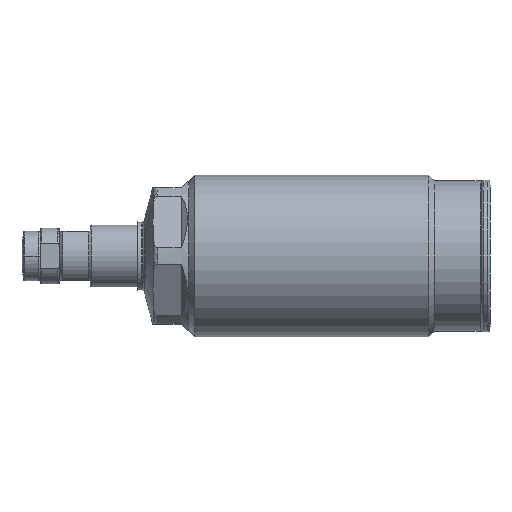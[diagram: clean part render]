
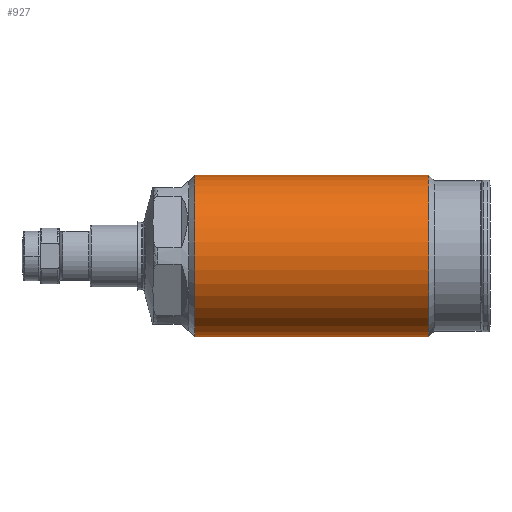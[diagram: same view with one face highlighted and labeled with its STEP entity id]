
A CAD part, left-side view. The second image highlights one B-rep face of the part: STEP entity #927.
In plain terms, the highlighted cylindrical face has radius 13 mm (diameter 26 mm), a partial arc.
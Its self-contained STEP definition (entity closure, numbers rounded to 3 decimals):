
#485=CYLINDRICAL_SURFACE('',#4067,13.);
#564=LINE('',#5998,#711);
#565=LINE('',#5999,#712);
#711=VECTOR('',#4731,1.);
#712=VECTOR('',#4732,1.);
#927=ADVANCED_FACE('',(#1228),#485,.T.);
#1228=FACE_OUTER_BOUND('',#1458,.T.);
#1458=EDGE_LOOP('',(#2077,#2078,#2079,#2080));
#2077=ORIENTED_EDGE('',*,*,#3117,.F.);
#2078=ORIENTED_EDGE('',*,*,#3216,.T.);
#2079=ORIENTED_EDGE('',*,*,#3118,.T.);
#2080=ORIENTED_EDGE('',*,*,#3217,.F.);
#2751=VERTEX_POINT('',#5990);
#2752=VERTEX_POINT('',#5992);
#2753=VERTEX_POINT('',#5996);
#2754=VERTEX_POINT('',#5997);
#3117=EDGE_CURVE('',#2754,#2752,#564,.T.);
#3118=EDGE_CURVE('',#2753,#2751,#565,.T.);
#3216=EDGE_CURVE('',#2754,#2753,#3639,.T.);
#3217=EDGE_CURVE('',#2752,#2751,#3640,.T.);
#3639=CIRCLE('',#4064,13.);
#3640=CIRCLE('',#4066,13.);
#4064=AXIS2_PLACEMENT_3D('',#6380,#4983,#4984);
#4066=AXIS2_PLACEMENT_3D('',#6382,#4987,#4988);
#4067=AXIS2_PLACEMENT_3D('',#6383,#4989,#4990);
#4731=DIRECTION('',(0.,1.,0.));
#4732=DIRECTION('',(0.,1.,0.));
#4983=DIRECTION('',(0.,1.,0.));
#4984=DIRECTION('',(0.,0.,1.));
#4987=DIRECTION('',(0.,1.,0.));
#4988=DIRECTION('',(0.,0.,1.));
#4989=DIRECTION('',(0.,1.,0.));
#4990=DIRECTION('',(0.,0.,1.));
#5990=CARTESIAN_POINT('',(0.,51.366,13.));
#5992=CARTESIAN_POINT('',(0.,51.366,-13.));
#5996=CARTESIAN_POINT('',(0.,13.666,13.));
#5997=CARTESIAN_POINT('',(0.,13.666,-13.));
#5998=CARTESIAN_POINT('',(0.,76.764,-13.));
#5999=CARTESIAN_POINT('',(0.,76.764,13.));
#6380=CARTESIAN_POINT('',(0.,13.666,0.));
#6382=CARTESIAN_POINT('',(0.,51.366,0.));
#6383=CARTESIAN_POINT('',(0.,76.764,0.));
